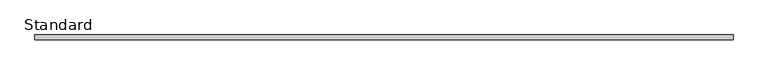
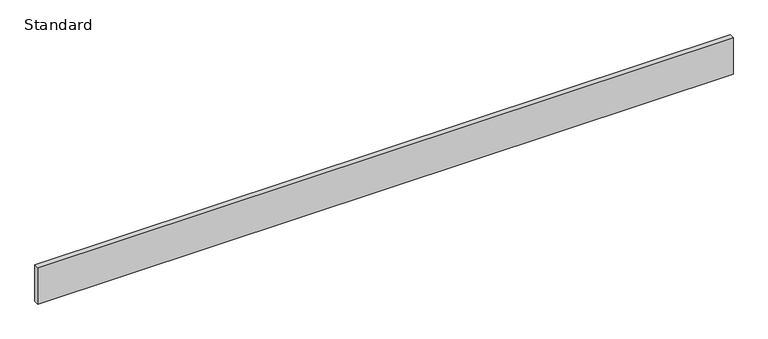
"""IFC4 building model written with IfcOpenShell, lengths in millimetres: furniture geometry, X_Bench-Wall-Duracube-Shoe Box with Fixtures : Standard."""

import ifcopenshell
import ifcopenshell.guid

model = None  # the IFC model being written
_history = None  # IfcOwnerHistory: only IFC2X3 demands one
_inside = {}  # id of a spatial element -> (the spatial element, [elements in it])
_under = {}  # id of a project, library or spatial element -> (it, [spatial elements below it])
_declared = {}  # id of a project -> (the project, [libraries it declares])
_typed = {}  # id of a type object -> (the type object, [elements of that type])
_made_of = {}  # id of a material, layer set ... -> (it, [elements and type objects made of it])


def new_model(schema):
    """Start an empty IFC model of exactly this schema.

    Asked for "IFC4X3", IfcOpenShell would pick the latest addendum, in which some entities
    have other attributes; the version numbers below select the first issue.
    IFC2X3 requires an IfcOwnerHistory on every rooted entity: one is made here for all.
    """
    global model, _history
    if schema == "IFC4X3":
        model = ifcopenshell.file(schema_version=(4, 3, 0, 0))
    else:
        model = ifcopenshell.file(schema=schema)
    _inside.clear()
    _under.clear()
    _declared.clear()
    _typed.clear()
    _made_of.clear()
    _history = None
    if model.schema == "IFC2X3":
        org = make("IfcOrganization", Name="unknown")
        user = make(
            "IfcPersonAndOrganization",
            ThePerson=make("IfcPerson", FamilyName="unknown"),
            TheOrganization=org,
        )
        app = make(
            "IfcApplication",
            ApplicationDeveloper=org,
            Version="unknown",
            ApplicationFullName="unknown",
            ApplicationIdentifier="unknown",
        )
        _history = make(
            "IfcOwnerHistory",
            OwningUser=user,
            OwningApplication=app,
            ChangeAction="ADDED",
            CreationDate=0,
        )
    return model


def make(cls, **values):
    """One entity of the class cls with the attributes given. An attribute that is None is left unset."""
    return model.create_entity(
        cls, **{name: value for name, value in values.items() if value is not None}
    )


def rooted(cls, **values):
    """An entity with a GlobalId (a new one), such as an element, a storey or a relation."""
    return make(cls, GlobalId=ifcopenshell.guid.new(), OwnerHistory=_history, **values)


def si_unit(unit_type, name, prefix=None):
    """IfcSIUnit, for example si_unit("LENGTHUNIT", "METRE", prefix="MILLI")."""
    return make("IfcSIUnit", UnitType=unit_type, Prefix=prefix, Name=name)


def assignment(units):
    """IfcUnitAssignment: the units of a project."""
    return None if units is None else make("IfcUnitAssignment", Units=units)


def point(xyz):
    """IfcCartesianPoint."""
    return None if xyz is None else make("IfcCartesianPoint", Coordinates=xyz)


def direction(xyz):
    """IfcDirection."""
    return None if xyz is None else make("IfcDirection", DirectionRatios=xyz)


def frame(location, z_axis=None, x_axis=None):
    """IfcAxis2Placement3D, a coordinate frame: its origin and axes. An axis left out is left unset."""
    return make(
        "IfcAxis2Placement3D",
        Location=point(location),
        Axis=direction(z_axis),
        RefDirection=direction(x_axis),
    )


def origin():
    """The frame at (0, 0, 0) with its axes left unset."""
    return frame((0.0, 0.0, 0.0))


def place(relative_to, where):
    """IfcLocalPlacement: puts the frame where relative to a parent placement (None: the world)."""
    return make(
        "IfcLocalPlacement", PlacementRelTo=relative_to, RelativePlacement=where
    )


def context(
    kind, dimensions, precision=None, world=None, true_north=None, identifier=None
):
    """IfcGeometricRepresentationContext, for example the 3D "Model" context."""
    return make(
        "IfcGeometricRepresentationContext",
        ContextIdentifier=identifier,
        ContextType=kind,
        CoordinateSpaceDimension=dimensions,
        Precision=precision,
        WorldCoordinateSystem=world,
        TrueNorth=true_north,
    )


def project(units=None, contexts=None):
    """IfcProject with its units and contexts."""
    return rooted(
        "IfcProject",
        Name="project",
        RepresentationContexts=contexts,
        UnitsInContext=assignment(units),
    )


def spatial(cls, under=None, at=None, **own):
    """A site, building, storey or space (cls), placed at a placement, below another one or the project."""
    s = rooted(cls, ObjectPlacement=at, **own)
    if under is not None:
        _under.setdefault(under.id(), (under, []))[1].append(s)
    return s


def polyline(points):
    """IfcPolyline through the points."""
    return make("IfcPolyline", Points=[point(p) for p in points])


def outline(outer, holes=None, kind="AREA"):
    """IfcArbitraryClosedProfileDef: a profile drawn as a closed curve; with holes, ...WithVoids."""
    if holes is None:
        return make("IfcArbitraryClosedProfileDef", ProfileType=kind, OuterCurve=outer)
    return make(
        "IfcArbitraryProfileDefWithVoids",
        ProfileType=kind,
        OuterCurve=outer,
        InnerCurves=holes,
    )


def extrude(swept, where, along, depth):
    """IfcExtrudedAreaSolid: the profile swept, set in the frame where, extruded along a direction by depth."""
    return make(
        "IfcExtrudedAreaSolid",
        SweptArea=swept,
        Position=where,
        ExtrudedDirection=direction(along),
        Depth=depth,
    )


def shape(context_of_items, identifier, shape_type, items):
    """IfcShapeRepresentation: the items that make up one representation, for example the "Body"."""
    return make(
        "IfcShapeRepresentation",
        ContextOfItems=context_of_items,
        RepresentationIdentifier=identifier,
        RepresentationType=shape_type,
        Items=items,
    )


def source(mapping_origin, context_of_items, identifier, shape_type, items):
    """IfcRepresentationMap: a shape defined once, which mapped items show again and again."""
    return make(
        "IfcRepresentationMap",
        MappingOrigin=mapping_origin,
        MappedRepresentation=shape(context_of_items, identifier, shape_type, items),
    )


def transform(
    local_origin,
    x_axis=None,
    y_axis=None,
    z_axis=None,
    scale=None,
    scale2=None,
    scale3=None,
    uniform=True,
):
    """IfcCartesianTransformationOperator3D, or its non-uniform kind. x_axis, y_axis, z_axis: its Axis1, 2, 3."""
    if uniform:
        return make(
            "IfcCartesianTransformationOperator3D",
            Axis1=direction(x_axis),
            Axis2=direction(y_axis),
            LocalOrigin=point(local_origin),
            Scale=scale,
            Axis3=direction(z_axis),
        )
    return make(
        "IfcCartesianTransformationOperator3DnonUniform",
        Axis1=direction(x_axis),
        Axis2=direction(y_axis),
        LocalOrigin=point(local_origin),
        Scale=scale,
        Axis3=direction(z_axis),
        Scale2=scale2,
        Scale3=scale3,
    )


def mapped(mapping_source, mapping_target):
    """IfcMappedItem: shows the shape of a source again, moved by a transform."""
    return make(
        "IfcMappedItem", MappingSource=mapping_source, MappingTarget=mapping_target
    )


def made_of(thing, what):
    """Note that an element or type object is made of a material, layer set ...; save() writes the relation."""
    if what is not None:
        _made_of.setdefault(what.id(), (what, []))[1].append(thing)
    return thing


def element(
    cls,
    number,
    at=None,
    inside=None,
    cuts=None,
    type_object=None,
    material=None,
    context=None,
    identifier="Body",
    shape_type=None,
    held_by="IfcProductDefinitionShape",
    body=None,
    shapes=None,
    **own,
):
    """One element of the class cls, such as IfcWall. Its Tag is "e" and its number.

    at: its placement. inside: the storey or other place that contains it. cuts: it is an
    opening in that element (IfcRelVoidsElement). A single representation is given by context,
    identifier, shape_type and body (its items); several are given by shapes. held_by: the class
    of the entity that holds the representations. save() writes the other relations.
    """
    e = rooted(cls, Tag="e%d" % number, ObjectPlacement=at, **own)
    if body is not None:
        shapes = [shape(context, identifier, shape_type, body)]
    if shapes is not None:
        e.Representation = make(held_by, Representations=shapes)
    if inside is not None:
        _inside.setdefault(inside.id(), (inside, []))[1].append(e)
    if cuts is not None:
        rooted(
            "IfcRelVoidsElement", RelatingBuildingElement=cuts, RelatedOpeningElement=e
        )
    if type_object is not None:
        _typed.setdefault(type_object.id(), (type_object, []))[1].append(e)
    return made_of(e, material)


def aggregate(whole, parts):
    """IfcRelAggregates: a whole, such as a stair, and the parts it consists of."""
    return rooted("IfcRelAggregates", RelatingObject=whole, RelatedObjects=parts)


def save(model, path):
    """Write the relations noted so far, then the file.

    IfcRelAggregates (storeys below a building ...), IfcRelContainedInSpatialStructure (elements
    in a storey), IfcRelDefinesByType, IfcRelAssociatesMaterial and IfcRelDeclares: one each for
    every whole, place, type object, material and project.
    """
    for whole, parts in _under.values():
        aggregate(whole, parts)
    for where, things in _inside.values():
        rooted(
            "IfcRelContainedInSpatialStructure",
            RelatedElements=things,
            RelatingStructure=where,
        )
    for kind, things in _typed.values():
        rooted("IfcRelDefinesByType", RelatedObjects=things, RelatingType=kind)
    for what, things in _made_of.values():
        rooted("IfcRelAssociatesMaterial", RelatedObjects=things, RelatingMaterial=what)
    for by, libraries in _declared.values():
        rooted("IfcRelDeclares", RelatingContext=by, RelatedDefinitions=libraries)
    model.write(path)


def standard_368e6f3f(model_context):
    return source(origin(), model_context, "Body", "SweptSolid", [
        extrude(outline(polyline([(944.7003264, -407.5), (944.7003264, -420.5), (-855.2996736, -420.5), (-855.2996736, -407.5), (944.7003264, -407.5)])), frame((0.0, 0.0, 1700.0), z_axis=(0.0, 0.0, 1.0), x_axis=(1.0, 0.0, 0.0)), (0.0, 0.0, 1.0), 100.0),
    ])


if __name__ == "__main__":
    model = new_model("IFC4")
    model_context = context("Model", 3, world=origin())
    ifc_project = project(units=[si_unit("LENGTHUNIT", "METRE", prefix="MILLI")], contexts=[model_context])
    site = spatial("IfcSite", under=ifc_project)
    building = spatial("IfcBuilding", under=site)
    placement = place(None, origin())
    standard_shape = standard_368e6f3f(model_context)
    element("IfcFurniture", 1, ObjectType="X_Bench-Wall-Duracube-Shoe Box with Fixtures : Standard", at=placement, inside=building, context=model_context, shape_type="MappedRepresentation", body=[
        mapped(standard_shape, transform((0.0, 0.0, 0.0), x_axis=(1.0, 0.0, 0.0), y_axis=(0.0, 1.0, 0.0), z_axis=(0.0, 0.0, 1.0))),
    ])
    save(model, "model.ifc")
